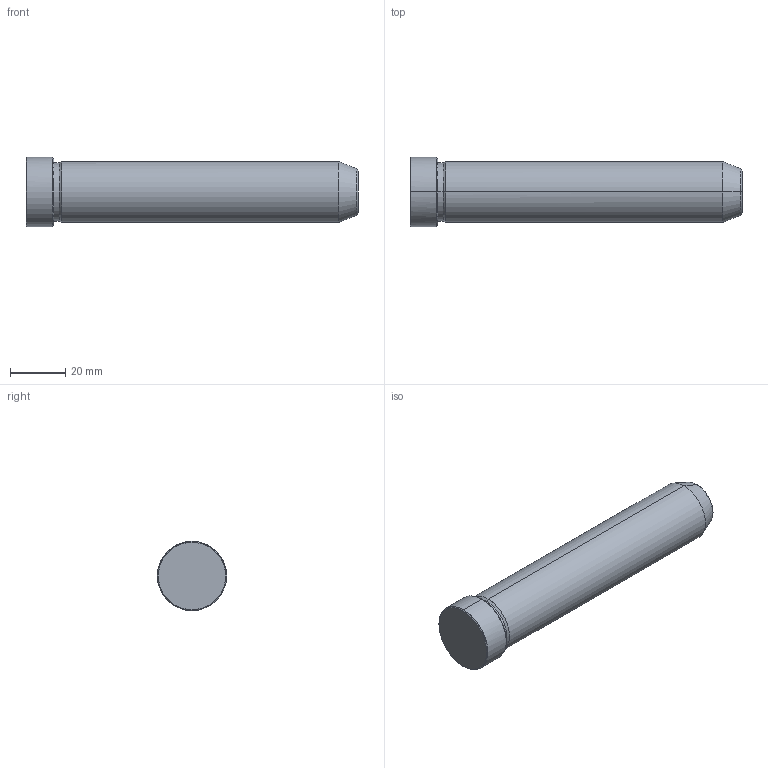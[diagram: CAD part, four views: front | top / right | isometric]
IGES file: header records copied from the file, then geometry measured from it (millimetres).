
Start section: START RECORD GO HERE.
Global section: file name: 549-22X120.igs; native system: DASSAULT SYSTEMES CATIA V5 R20 - www.3ds.com; preprocessor: CATIA Version 5 Release 20 ; author: Utente; organization: NB04-ASUS; date: 20211213.135945; units: millimetre
Bounding box: 120 x 25 x 25 mm (x, y, z)
Surface area: 9169.2 mm2 (no closed solid volume)
Topology: 0 solids, 0 shells, 19 faces, 112 edges, 112 vertices
Faces by surface type: revolution 16, plane 3
